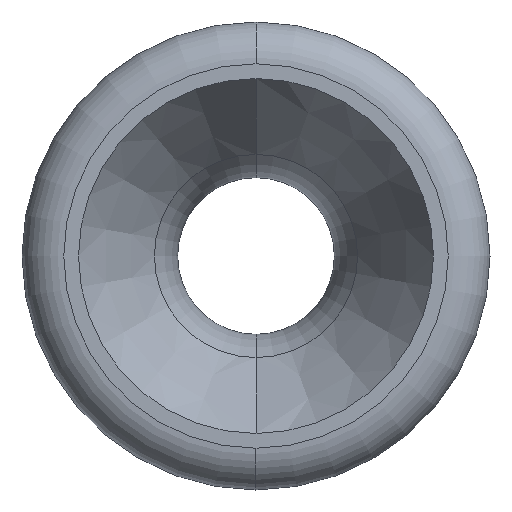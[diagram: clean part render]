
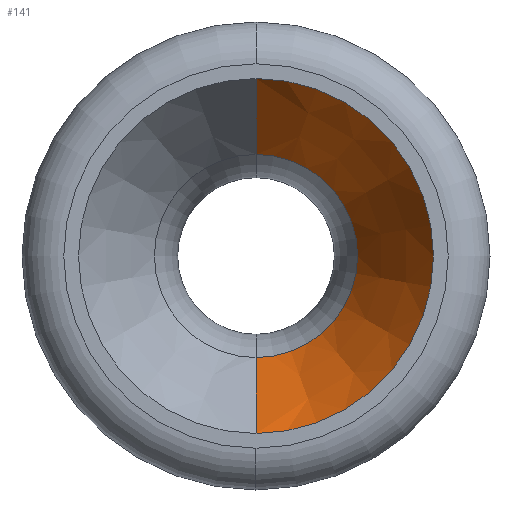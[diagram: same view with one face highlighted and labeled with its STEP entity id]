
A CAD part, left-side view. The second image highlights one B-rep face of the part: STEP entity #141.
In plain terms, the highlighted conical face has half-angle 31.176 degrees and reference radius 11.359 mm.
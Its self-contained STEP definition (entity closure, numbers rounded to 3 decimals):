
#141=ADVANCED_FACE('',(#337),#338,.F.);
#337=FACE_OUTER_BOUND('',#601,.T.);
#338=CONICAL_SURFACE('',#602,11.359,0.544);
#601=EDGE_LOOP('',(#949,#950,#951,#952));
#602=AXIS2_PLACEMENT_3D('',#953,#954,#955);
#949=ORIENTED_EDGE('',*,*,#1519,.F.);
#950=ORIENTED_EDGE('',*,*,#1520,.F.);
#951=ORIENTED_EDGE('',*,*,#1521,.F.);
#952=ORIENTED_EDGE('',*,*,#1522,.F.);
#953=CARTESIAN_POINT('',(42.109,0.0,0.0));
#954=DIRECTION('',(-1.0,0.0,-0.0));
#955=DIRECTION('',(0.0,0.0,-1.0));
#1519=EDGE_CURVE('',#1798,#1799,#1800,.T.);
#1520=EDGE_CURVE('',#1801,#1798,#1802,.T.);
#1521=EDGE_CURVE('',#1803,#1801,#1804,.T.);
#1522=EDGE_CURVE('',#1799,#1803,#1805,.T.);
#1798=VERTEX_POINT('',#2137);
#1799=VERTEX_POINT('',#2138);
#1800=LINE('',#2139,#2140);
#1801=VERTEX_POINT('',#2141);
#1802=CIRCLE('',#2142,14.45);
#1803=VERTEX_POINT('',#2143);
#1804=LINE('',#2144,#2145);
#1805=CIRCLE('',#2146,8.267);
#2137=CARTESIAN_POINT('',(37.,0.0,-14.45));
#2138=CARTESIAN_POINT('',(47.219,0.,-8.267));
#2139=CARTESIAN_POINT('',(42.109,0.,-11.359));
#2140=VECTOR('',#2549,1.0);
#2141=CARTESIAN_POINT('',(37.,0.,14.45));
#2142=AXIS2_PLACEMENT_3D('',#2550,#2551,#2552);
#2143=CARTESIAN_POINT('',(47.219,0.,8.267));
#2144=CARTESIAN_POINT('',(42.109,0.,11.359));
#2145=VECTOR('',#2553,1.0);
#2146=AXIS2_PLACEMENT_3D('',#2554,#2555,#2556);
#2549=DIRECTION('',(0.856,0.,0.518));
#2550=CARTESIAN_POINT('',(37.,0.0,0.0));
#2551=DIRECTION('',(1.0,0.0,0.0));
#2552=DIRECTION('',(0.0,0.0,-1.0));
#2553=DIRECTION('',(-0.856,0.,0.518));
#2554=CARTESIAN_POINT('',(47.219,0.0,0.0));
#2555=DIRECTION('',(-1.0,0.0,0.0));
#2556=DIRECTION('',(0.0,0.0,-1.0));
